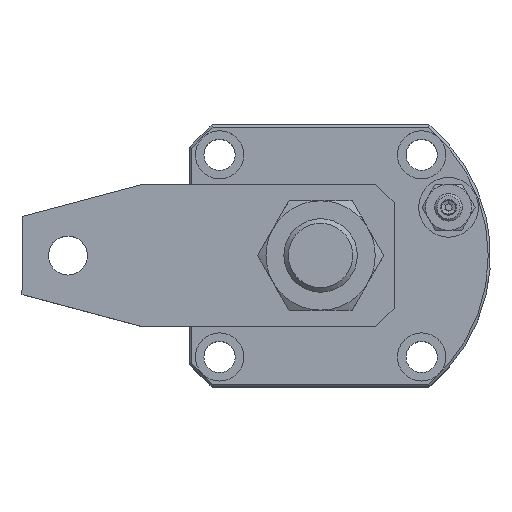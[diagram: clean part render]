
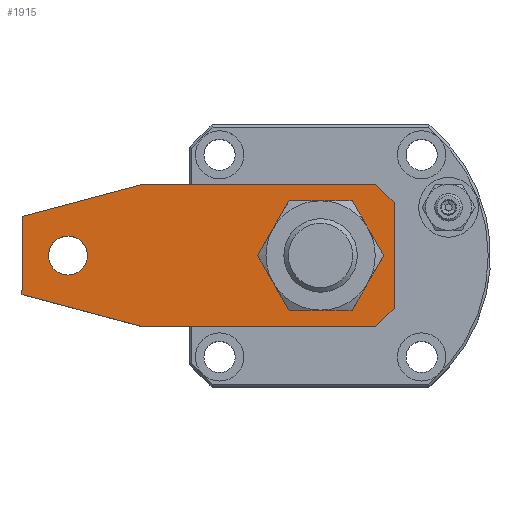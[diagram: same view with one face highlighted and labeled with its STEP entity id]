
A CAD part, top view. The second image highlights one B-rep face of the part: STEP entity #1915.
In plain terms, the highlighted planar face has unit normal (0, 0, 1).
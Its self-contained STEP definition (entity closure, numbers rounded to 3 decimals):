
#234=LINE('',#3883,#294);
#238=LINE('',#3892,#298);
#241=LINE('',#3898,#301);
#244=LINE('',#3904,#304);
#247=LINE('',#3910,#307);
#250=LINE('',#3916,#310);
#253=LINE('',#3922,#313);
#256=LINE('',#3928,#316);
#294=VECTOR('',#2933,1000.);
#298=VECTOR('',#2939,1000.);
#301=VECTOR('',#2944,1000.);
#304=VECTOR('',#2949,1000.);
#307=VECTOR('',#2954,1000.);
#310=VECTOR('',#2959,1000.);
#313=VECTOR('',#2964,1000.);
#316=VECTOR('',#2969,1000.);
#780=ORIENTED_EDGE('',*,*,#1034,.F.);
#781=ORIENTED_EDGE('',*,*,#1035,.F.);
#782=ORIENTED_EDGE('',*,*,#1008,.T.);
#783=ORIENTED_EDGE('',*,*,#1012,.T.);
#784=ORIENTED_EDGE('',*,*,#1015,.T.);
#785=ORIENTED_EDGE('',*,*,#1018,.T.);
#786=ORIENTED_EDGE('',*,*,#1021,.T.);
#787=ORIENTED_EDGE('',*,*,#1024,.T.);
#788=ORIENTED_EDGE('',*,*,#1027,.T.);
#789=ORIENTED_EDGE('',*,*,#1030,.T.);
#1008=EDGE_CURVE('',#1188,#1189,#234,.T.);
#1012=EDGE_CURVE('',#1189,#1192,#238,.T.);
#1015=EDGE_CURVE('',#1192,#1194,#241,.T.);
#1018=EDGE_CURVE('',#1194,#1196,#244,.T.);
#1021=EDGE_CURVE('',#1196,#1198,#247,.T.);
#1024=EDGE_CURVE('',#1198,#1200,#250,.T.);
#1027=EDGE_CURVE('',#1200,#1202,#253,.T.);
#1030=EDGE_CURVE('',#1202,#1188,#256,.T.);
#1034=EDGE_CURVE('',#1206,#1206,#1302,.T.);
#1035=EDGE_CURVE('',#1207,#1207,#1303,.T.);
#1188=VERTEX_POINT('',#3884);
#1189=VERTEX_POINT('',#3885);
#1192=VERTEX_POINT('',#3893);
#1194=VERTEX_POINT('',#3899);
#1196=VERTEX_POINT('',#3905);
#1198=VERTEX_POINT('',#3911);
#1200=VERTEX_POINT('',#3917);
#1202=VERTEX_POINT('',#3923);
#1206=VERTEX_POINT('',#3937);
#1207=VERTEX_POINT('',#3939);
#1302=CIRCLE('',#2480,4.25);
#1303=CIRCLE('',#2481,8.5);
#1505=EDGE_LOOP('',(#780));
#1506=EDGE_LOOP('',(#781));
#1507=EDGE_LOOP('',(#782,#783,#784,#785,#786,#787,#788,#789));
#1715=FACE_BOUND('',#1505,.T.);
#1716=FACE_BOUND('',#1506,.T.);
#1717=FACE_BOUND('',#1507,.T.);
#1782=PLANE('',#2479);
#1915=ADVANCED_FACE('',(#1715,#1716,#1717),#1782,.F.);
#2479=AXIS2_PLACEMENT_3D('',#3935,#2977,#2978);
#2480=AXIS2_PLACEMENT_3D('',#3936,#2979,#2980);
#2481=AXIS2_PLACEMENT_3D('',#3938,#2981,#2982);
#2933=DIRECTION('',(-0.707,0.707,0.));
#2939=DIRECTION('',(-1.,0.,0.));
#2944=DIRECTION('',(-0.966,-0.259,0.));
#2949=DIRECTION('',(0.,-1.,0.));
#2954=DIRECTION('',(0.966,-0.259,0.));
#2959=DIRECTION('',(1.,0.,0.));
#2964=DIRECTION('',(0.707,0.707,0.));
#2969=DIRECTION('',(0.,1.,0.));
#2977=DIRECTION('',(0.,0.,-1.));
#2978=DIRECTION('',(0.,1.,0.));
#2979=DIRECTION('',(0.,0.,1.));
#2980=DIRECTION('',(1.,0.,0.));
#2981=DIRECTION('',(0.,0.,1.));
#2982=DIRECTION('',(1.,0.,0.));
#3883=CARTESIAN_POINT('',(36.5,31.,8.5));
#3884=CARTESIAN_POINT('',(40.5,27.,8.5));
#3885=CARTESIAN_POINT('',(36.5,31.,8.5));
#3892=CARTESIAN_POINT('',(36.5,31.,8.5));
#3893=CARTESIAN_POINT('',(-14.376,31.,8.5));
#3898=CARTESIAN_POINT('',(-40.5,24.,8.5));
#3899=CARTESIAN_POINT('',(-40.5,24.,8.5));
#3904=CARTESIAN_POINT('',(-40.5,24.,8.5));
#3905=CARTESIAN_POINT('',(-40.5,7.,8.5));
#3910=CARTESIAN_POINT('',(-40.5,7.,8.5));
#3911=CARTESIAN_POINT('',(-14.376,0.,8.5));
#3916=CARTESIAN_POINT('',(-14.376,0.,8.5));
#3917=CARTESIAN_POINT('',(36.5,0.,8.5));
#3922=CARTESIAN_POINT('',(40.5,4.,8.5));
#3923=CARTESIAN_POINT('',(40.5,4.,8.5));
#3928=CARTESIAN_POINT('',(40.5,4.,8.5));
#3935=CARTESIAN_POINT('',(0.,0.,8.5));
#3936=CARTESIAN_POINT('',(-30.5,15.5,8.5));
#3937=CARTESIAN_POINT('',(-26.25,15.5,8.5));
#3938=CARTESIAN_POINT('',(24.5,15.5,8.5));
#3939=CARTESIAN_POINT('',(33.,15.5,8.5));
